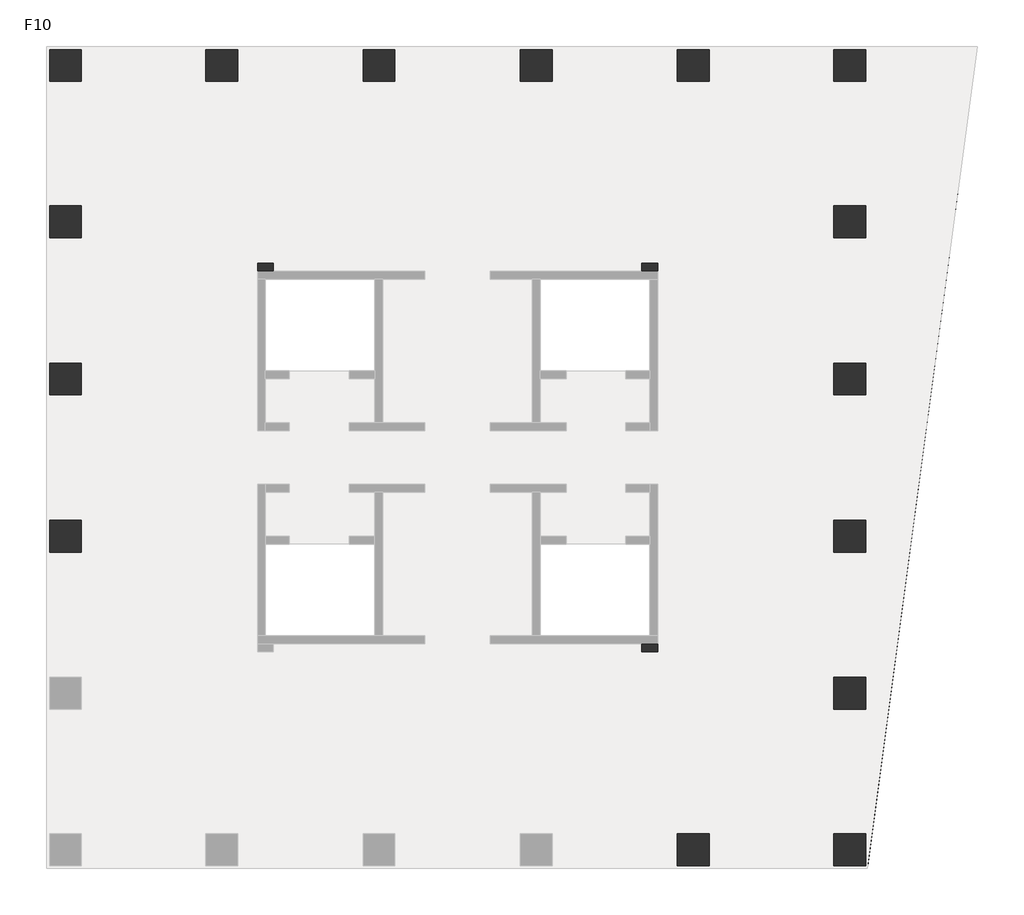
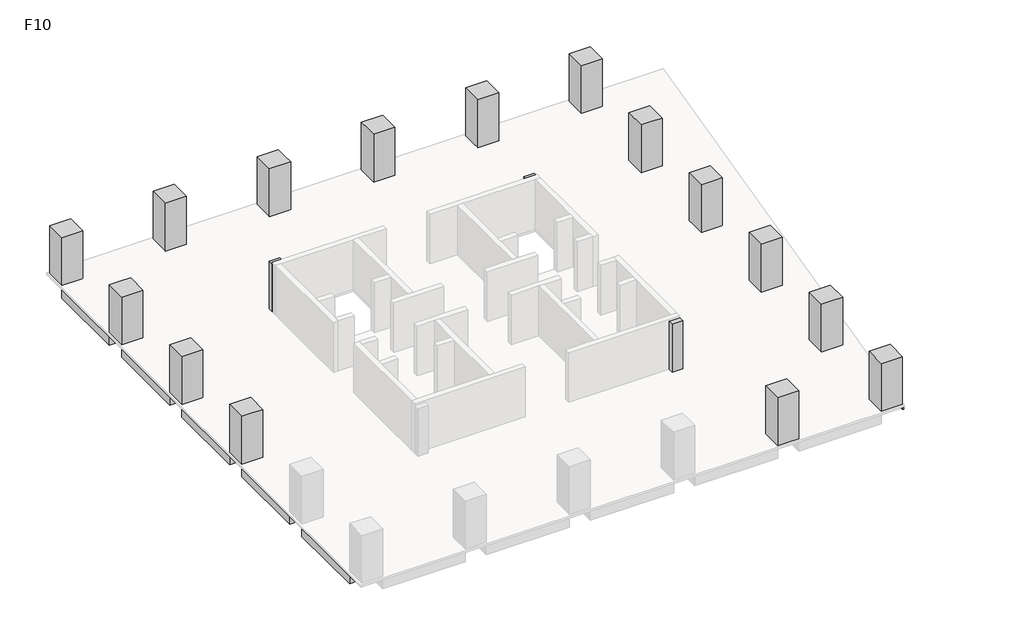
# One storey, part 2 of 2: 21 beams, 18 columns.
"""IFC4 building model written with IfcOpenShell, lengths in millimetres."""

from ifc_helpers import new_model, si_unit, frame, origin, place, context, project, spatial, polyline, outline, extrude, faceted_brep, element, save

model = new_model("IFC4")

# Units and contexts
model_context = context("Model", 3, world=origin())
ifc_project = project(units=[si_unit("LENGTHUNIT", "METRE", prefix="MILLI")], contexts=[model_context])

# Site, building, storey
site = spatial("IfcSite", under=ifc_project)
building = spatial("IfcBuilding", under=site)
storey = spatial("IfcBuildingStorey", under=building, Name="F10", Elevation=40000.0)

# Beams
placement = place(None, origin())
element("IfcBeam", 1, ObjectType="混凝土 - 矩形梁 : KL(5)-800x1000", at=placement, inside=storey, context=model_context, shape_type="SweptSolid", body=[
    extrude(outline(polyline([(25327.3257831, 27051.0498658), (25327.3257831, 26251.0498658), (19077.3257831, 26251.0498658), (19077.3257831, 27051.0498658), (25327.3257831, 27051.0498658)])), frame((0.0, 0.0, 39000.0), z_axis=(0.0, 0.0, 1.0), x_axis=(1.0, 0.0, 0.0)), (0.0, 0.0, 1.0), 840.0),
    extrude(outline(polyline([(-12472.6742169, 26251.0498658), (-12472.6742169, 27051.0498658), (-6222.6742169, 27051.0498658), (-6222.6742169, 26251.0498658), (-12472.6742169, 26251.0498658)])), frame((0.0, 0.0, 39000.0), z_axis=(0.0, 0.0, 1.0), x_axis=(1.0, 0.0, 0.0)), (0.0, 0.0, 1.0), 840.0),
    extrude(outline(polyline([(-4622.6742169, 26251.0498658), (-4622.6742169, 27051.0498658), (1677.3257831, 27051.0498658), (1677.3257831, 26251.0498658), (-4622.6742169, 26251.0498658)])), frame((0.0, 0.0, 39000.0), z_axis=(0.0, 0.0, 1.0), x_axis=(1.0, 0.0, 0.0)), (0.0, 0.0, 1.0), 840.0),
    extrude(outline(polyline([(3277.3257831, 26251.0498658), (3277.3257831, 27051.0498658), (9577.3257831, 27051.0498658), (9577.3257831, 26251.0498658), (3277.3257831, 26251.0498658)])), frame((0.0, 0.0, 39000.0), z_axis=(0.0, 0.0, 1.0), x_axis=(1.0, 0.0, 0.0)), (0.0, 0.0, 1.0), 840.0),
    extrude(outline(polyline([(11177.3257831, 26251.0498658), (11177.3257831, 27051.0498658), (17477.3257831, 27051.0498658), (17477.3257831, 26251.0498658), (11177.3257831, 26251.0498658)])), frame((0.0, 0.0, 39000.0), z_axis=(0.0, 0.0, 1.0), x_axis=(1.0, 0.0, 0.0)), (0.0, 0.0, 1.0), 840.0),
])
element("IfcBeam", 2, ObjectType="混凝土 - 矩形梁 : KL(5)-800x1000", at=placement, inside=storey, context=model_context, shape_type="Brep", body=[
    faceted_brep([(26927.3257831, 26251.0498658, 39000.0), (32422.0087099, 26251.0498658, 39000.0), (32422.0087099, 26251.0498658, 39840.0), (32018.4257091, 26251.0498658, 39840.0), (26927.3257831, 26251.0498658, 39840.0), (32422.0087099, 27051.0498658, 39000.0), (26927.3257831, 27051.0498658, 39000.0), (26927.3257831, 27051.0498658, 39840.0), (32422.0087099, 27051.0498658, 39840.0)], [[[0, 1, 2, 3, 4]], [[5, 1, 0, 6]], [[5, 6, 7, 8]], [[1, 5, 8, 2]], [[6, 0, 4, 7]], [[4, 3, 2, 8, 7]]]),
])
element("IfcBeam", 3, ObjectType="混凝土 - 矩形梁 : KL(5)-800x1000", at=placement, inside=storey, context=model_context, shape_type="Brep", body=[
    faceted_brep([(26127.3257831, -6098.9501342, 39000.0), (26127.3257831, -12348.9501342, 39000.0), (26127.3257831, -12348.9501342, 39840.0), (26127.3257831, -6098.9501342, 39840.0), (26927.3257831, -12348.9501342, 39000.0), (26927.3257831, -6098.9501342, 39000.0), (26927.3257831, -6098.9501342, 39840.0), (26927.3257831, -11700.7859463, 39840.0), (26927.3257831, -12348.9501342, 39840.0)], [[[0, 1, 2, 3]], [[4, 1, 0, 5]], [[4, 5, 6, 7, 8]], [[1, 4, 8, 2]], [[5, 0, 3, 6]], [[3, 2, 8, 7, 6]]]),
    faceted_brep([(26927.3257831, 25451.0498658, 39000.0), (26127.3257831, 25451.0498658, 39000.0), (26127.3257831, 25451.0498658, 39840.0), (26927.3257831, 25451.0498658, 39840.0), (26127.3257831, 19201.0498658, 39000.0), (26927.3257831, 19201.0498658, 39000.0), (26927.3257831, 19201.0498658, 39840.0), (26127.3257831, 19201.0498658, 39840.0)], [[[0, 1, 2, 3]], [[4, 5, 6, 7]], [[1, 4, 7, 2]], [[1, 0, 5, 4]], [[5, 0, 3, 6]], [[3, 2, 7, 6]]]),
    faceted_brep([(26927.3257831, 17601.0498658, 39000.0), (26127.3257831, 17601.0498658, 39000.0), (26127.3257831, 17601.0498658, 39840.0), (26927.3257831, 17601.0498658, 39840.0), (26127.3257831, 11301.0498658, 39000.0), (26927.3257831, 11301.0498658, 39000.0), (26927.3257831, 11301.0498658, 39840.0), (26127.3257831, 11301.0498658, 39840.0)], [[[0, 1, 2, 3]], [[4, 5, 6, 7]], [[1, 4, 7, 2]], [[1, 0, 5, 4]], [[5, 0, 3, 6]], [[3, 2, 7, 6]]]),
    faceted_brep([(26927.3257831, 9701.0498658, 39000.0), (26127.3257831, 9701.0498658, 39000.0), (26127.3257831, 9701.0498658, 39840.0), (26927.3257831, 9701.0498658, 39840.0), (26127.3257831, 3401.0498658, 39000.0), (26927.3257831, 3401.0498658, 39000.0), (26927.3257831, 3401.0498658, 39840.0), (26127.3257831, 3401.0498658, 39840.0)], [[[0, 1, 2, 3]], [[4, 5, 6, 7]], [[1, 4, 7, 2]], [[1, 0, 5, 4]], [[5, 0, 3, 6]], [[3, 2, 7, 6]]]),
    faceted_brep([(26927.3257831, 1801.0498658, 39000.0), (26127.3257831, 1801.0498658, 39000.0), (26127.3257831, 1801.0498658, 39840.0), (26927.3257831, 1801.0498658, 39840.0), (26127.3257831, -4498.9501342, 39000.0), (26927.3257831, -4498.9501342, 39000.0), (26927.3257831, -4498.9501342, 39840.0), (26127.3257831, -4498.9501342, 39840.0)], [[[0, 1, 2, 3]], [[4, 5, 6, 7]], [[1, 4, 7, 2]], [[1, 0, 5, 4]], [[5, 0, 3, 6]], [[3, 2, 7, 6]]]),
])
element("IfcBeam", 4, ObjectType="混凝土 - 矩形梁 : KL(5)-800x1000", at=placement, inside=storey, context=model_context, shape_type="SweptSolid", body=[
    extrude(outline(polyline([(-14072.6742169, 25451.0498658), (-13272.6742169, 25451.0498658), (-13272.6742169, 19201.0498658), (-14072.6742169, 19201.0498658), (-14072.6742169, 25451.0498658)])), frame((0.0, 0.0, 39000.0), z_axis=(0.0, 0.0, 1.0), x_axis=(1.0, 0.0, 0.0)), (0.0, 0.0, 1.0), 840.0),
    extrude(outline(polyline([(-13272.6742169, -12348.9501342), (-14072.6742169, -12348.9501342), (-14072.6742169, -6098.9501342), (-13272.6742169, -6098.9501342), (-13272.6742169, -12348.9501342)])), frame((0.0, 0.0, 39000.0), z_axis=(0.0, 0.0, 1.0), x_axis=(1.0, 0.0, 0.0)), (0.0, 0.0, 1.0), 840.0),
    extrude(outline(polyline([(-14072.6742169, 17601.0498658), (-13272.6742169, 17601.0498658), (-13272.6742169, 11301.0498658), (-14072.6742169, 11301.0498658), (-14072.6742169, 17601.0498658)])), frame((0.0, 0.0, 39000.0), z_axis=(0.0, 0.0, 1.0), x_axis=(1.0, 0.0, 0.0)), (0.0, 0.0, 1.0), 840.0),
    extrude(outline(polyline([(-14072.6742169, 9701.0498658), (-13272.6742169, 9701.0498658), (-13272.6742169, 3401.0498658), (-14072.6742169, 3401.0498658), (-14072.6742169, 9701.0498658)])), frame((0.0, 0.0, 39000.0), z_axis=(0.0, 0.0, 1.0), x_axis=(1.0, 0.0, 0.0)), (0.0, 0.0, 1.0), 840.0),
    extrude(outline(polyline([(-14072.6742169, 1801.0498658), (-13272.6742169, 1801.0498658), (-13272.6742169, -4498.9501342), (-14072.6742169, -4498.9501342), (-14072.6742169, 1801.0498658)])), frame((0.0, 0.0, 39000.0), z_axis=(0.0, 0.0, 1.0), x_axis=(1.0, 0.0, 0.0)), (0.0, 0.0, 1.0), 840.0),
])
element("IfcBeam", 5, ObjectType="混凝土 - 矩形梁 : L1-800x500", at=placement, inside=storey, context=model_context, shape_type="SweptSolid", body=[
    extrude(outline(polyline([(-12472.6742169, 2201.0498658), (-12472.6742169, 3001.0498658), (-3622.6742169, 3001.0498658), (-3622.6742169, 2201.0498658), (-12472.6742169, 2201.0498658)])), frame((0.0, 0.0, 39500.0), z_axis=(0.0, 0.0, 1.0), x_axis=(1.0, 0.0, 0.0)), (0.0, 0.0, 1.0), 340.0),
])
element("IfcBeam", 6, ObjectType="混凝土 - 矩形梁 : L1-800x500", at=placement, inside=storey, context=model_context, shape_type="SweptSolid", body=[
    extrude(outline(polyline([(-12472.6742169, 10101.0498658), (-12472.6742169, 10901.0498658), (-3622.6742169, 10901.0498658), (-3622.6742169, 10101.0498658), (-12472.6742169, 10101.0498658)])), frame((0.0, 0.0, 39500.0), z_axis=(0.0, 0.0, 1.0), x_axis=(1.0, 0.0, 0.0)), (0.0, 0.0, 1.0), 340.0),
])
element("IfcBeam", 7, ObjectType="混凝土 - 矩形梁 : L1-800x500", at=placement, inside=storey, context=model_context, shape_type="Brep", body=[
    faceted_brep([(-12472.6742169, 17789.85471, 39500.0), (-3622.6742169, 15588.3621727, 39500.0), (-3622.6742169, 15588.3621727, 39840.0), (-12472.6742169, 17789.85471, 39840.0), (-3173.6696907, 16301.0498658, 39500.0), (-3622.6742169, 16301.0498658, 39500.0), (-3622.6742169, 15901.0498658, 39500.0), (-12472.6742169, 18614.2350714, 39500.0), (-3746.9473979, 16443.6562607, 39500.0), (-12472.6742169, 18614.2350714, 39840.0), (-3746.9473979, 16443.6562607, 39840.0), (-3173.6696907, 16301.0498658, 39840.0), (-3622.6742169, 16301.0498658, 39840.0)], [[[0, 1, 2, 3]], [[4, 5, 6, 1, 0, 7, 8]], [[4, 8, 7, 9, 10, 11]], [[6, 5, 12, 2, 1]], [[5, 4, 11, 12]], [[7, 0, 3, 9]], [[3, 2, 12, 11, 10, 9]]]),
])
element("IfcBeam", 8, ObjectType="混凝土 - 矩形梁 : L1-800x500", at=placement, inside=storey, context=model_context, shape_type="SweptSolid", body=[
    extrude(outline(polyline([(-3173.6696907, 16301.0498658), (-3746.9473979, 16443.6562607), (-5661.5624638, 25451.0498658), (-4843.6893517, 25451.0498658), (-2898.7618154, 16301.0498658), (-3173.6696907, 16301.0498658)])), frame((0.0, 0.0, 39500.0), z_axis=(0.0, 0.0, 1.0), x_axis=(1.0, 0.0, 0.0)), (0.0, 0.0, 1.0), 340.0),
])
element("IfcBeam", 9, ObjectType="混凝土 - 矩形梁 : L1-800x500", at=placement, inside=storey, context=model_context, shape_type="SweptSolid", body=[
    extrude(outline(polyline([(2077.3257831, 25451.0498658), (2877.3257831, 25451.0498658), (2877.3257831, 15901.0498658), (2077.3257831, 15901.0498658), (2077.3257831, 25451.0498658)])), frame((0.0, 0.0, 39500.0), z_axis=(0.0, 0.0, 1.0), x_axis=(1.0, 0.0, 0.0)), (0.0, 0.0, 1.0), 340.0),
])
element("IfcBeam", 10, ObjectType="混凝土 - 矩形梁 : L1-800x500", at=placement, inside=storey, context=model_context, shape_type="SweptSolid", body=[
    extrude(outline(polyline([(9977.3257831, 25451.0498658), (10777.3257831, 25451.0498658), (10777.3257831, 15901.0498658), (9977.3257831, 15901.0498658), (9977.3257831, 25451.0498658)])), frame((0.0, 0.0, 39500.0), z_axis=(0.0, 0.0, 1.0), x_axis=(1.0, 0.0, 0.0)), (0.0, 0.0, 1.0), 340.0),
])
element("IfcBeam", 11, ObjectType="混凝土 - 矩形梁 : L1-800x500", at=placement, inside=storey, context=model_context, shape_type="Brep", body=[
    faceted_brep([(25327.3257831, -4687.7549784, 39500.0), (16477.3257831, -2486.2624411, 39500.0), (16477.3257831, -2486.2624411, 39840.0), (25327.3257831, -4687.7549784, 39840.0), (16028.3212569, -3198.9501342, 39500.0), (16477.3257831, -3198.9501342, 39500.0), (16477.3257831, -2798.9501342, 39500.0), (25327.3257831, -5512.1353397, 39500.0), (16601.5989641, -3341.556529, 39500.0), (25327.3257831, -5512.1353397, 39840.0), (16601.5989641, -3341.556529, 39840.0), (16028.3212569, -3198.9501342, 39840.0), (16477.3257831, -3198.9501342, 39840.0)], [[[0, 1, 2, 3]], [[4, 5, 6, 1, 0, 7, 8]], [[4, 8, 7, 9, 10, 11]], [[6, 5, 12, 2, 1]], [[5, 4, 11, 12]], [[7, 0, 3, 9]], [[3, 2, 12, 11, 10, 9]]]),
])
element("IfcBeam", 12, ObjectType="混凝土 - 矩形梁 : L1-800x500", at=placement, inside=storey, context=model_context, shape_type="SweptSolid", body=[
    extrude(outline(polyline([(16028.3212569, -3198.9501342), (16601.5989641, -3341.556529), (18516.21403, -12348.9501342), (17698.3409179, -12348.9501342), (15753.4133817, -3198.9501342), (16028.3212569, -3198.9501342)])), frame((0.0, 0.0, 39500.0), z_axis=(0.0, 0.0, 1.0), x_axis=(1.0, 0.0, 0.0)), (0.0, 0.0, 1.0), 340.0),
])
element("IfcBeam", 13, ObjectType="混凝土 - 矩形梁 : L1-800x500", at=placement, inside=storey, context=model_context, shape_type="SweptSolid", body=[
    extrude(outline(polyline([(25327.3257831, 3001.0498658), (25327.3257831, 2201.0498658), (16477.3257831, 2201.0498658), (16477.3257831, 3001.0498658), (25327.3257831, 3001.0498658)])), frame((0.0, 0.0, 39500.0), z_axis=(0.0, 0.0, 1.0), x_axis=(1.0, 0.0, 0.0)), (0.0, 0.0, 1.0), 340.0),
])
element("IfcBeam", 14, ObjectType="混凝土 - 矩形梁 : L1-800x500", at=placement, inside=storey, context=model_context, shape_type="SweptSolid", body=[
    extrude(outline(polyline([(25327.3257831, 10901.0498658), (25327.3257831, 10101.0498658), (16477.3257831, 10101.0498658), (16477.3257831, 10901.0498658), (25327.3257831, 10901.0498658)])), frame((0.0, 0.0, 39500.0), z_axis=(0.0, 0.0, 1.0), x_axis=(1.0, 0.0, 0.0)), (0.0, 0.0, 1.0), 340.0),
])
element("IfcBeam", 15, ObjectType="混凝土 - 矩形梁 : L1-800x500", at=placement, inside=storey, context=model_context, shape_type="Brep", body=[
    faceted_brep([(25327.3257831, 18610.6867312, 39500.0), (16590.8993897, 16393.3196262, 39500.0), (16227.3565337, 16301.0498658, 39500.0), (16227.3565337, 16301.0498658, 39840.0), (16590.8993897, 16393.3196262, 39840.0), (25327.3257831, 18610.6867312, 39840.0), (16477.3257831, 16301.0498658, 39500.0), (25327.3257831, 17785.3216299, 39500.0), (16477.3257831, 15539.1287365, 39500.0), (16477.3257831, 15901.0498658, 39500.0), (25327.3257831, 17785.3216299, 39840.0), (16477.3257831, 15539.1287365, 39840.0), (16477.3257831, 16301.0498658, 39840.0)], [[[0, 1, 2, 3, 4, 5]], [[6, 2, 1, 0, 7, 8, 9]], [[8, 7, 10, 11]], [[9, 8, 11, 12, 6]], [[2, 6, 12, 3]], [[7, 0, 5, 10]], [[5, 4, 3, 12, 11, 10]]]),
])
element("IfcBeam", 16, ObjectType="混凝土 - 矩形梁 : L1-800x500", at=placement, inside=storey, context=model_context, shape_type="SweptSolid", body=[
    extrude(outline(polyline([(16590.8993897, 16393.3196262), (16227.3565337, 16301.0498658), (15753.4133817, 16301.0498658), (17698.3409179, 25451.0498658), (18516.21403, 25451.0498658), (16590.8993897, 16393.3196262)])), frame((0.0, 0.0, 39500.0), z_axis=(0.0, 0.0, 1.0), x_axis=(1.0, 0.0, 0.0)), (0.0, 0.0, 1.0), 340.0),
])
element("IfcBeam", 17, ObjectType="混凝土 - 矩形梁 : L2-400x400", at=placement, inside=storey, context=model_context, shape_type="Brep", body=[
    faceted_brep([(32422.0087099, 26251.0498658, 39600.0), (27029.3257831, -13948.9501342, 39600.0), (26927.3257831, -13935.2672073, 39600.0), (26927.3257831, -11700.7859463, 39600.0), (27759.2793677, -5498.9501342, 39600.0), (27812.9379042, -5098.9501342, 39600.0), (28819.0354652, 2401.0498658, 39600.0), (28872.6940018, 2801.0498658, 39600.0), (29878.7915628, 10301.0498658, 39600.0), (29932.4500994, 10701.0498658, 39600.0), (30938.5476603, 18201.0498658, 39600.0), (30992.2061969, 18601.0498658, 39600.0), (32018.4257091, 26251.0498658, 39600.0), (32422.0087099, 26251.0498658, 39840.0), (27029.3257831, -13948.9501342, 39840.0), (32018.4257091, 26251.0498658, 39840.0), (26927.3257831, -13935.2672073, 39840.0), (26927.3257831, -12348.9501342, 39840.0), (26927.3257831, -11700.7859463, 39840.0), (27759.2793677, -5498.9501342, 39840.0), (27812.9379042, -5098.9501342, 39840.0), (28819.0354652, 2401.0498658, 39840.0), (28872.6940018, 2801.0498658, 39840.0), (29878.7915628, 10301.0498658, 39840.0), (29932.4500994, 10701.0498658, 39840.0), (30938.5476603, 18201.0498658, 39840.0), (30992.2061969, 18601.0498658, 39840.0)], [[[0, 1, 2, 3, 4, 5, 6, 7, 8, 9, 10, 11, 12]], [[1, 0, 13, 14]], [[0, 12, 15, 13]], [[3, 2, 16, 17, 18]], [[12, 11, 10, 9, 8, 7, 6, 5, 4, 3, 18, 19, 20, 21, 22, 23, 24, 25, 26, 15]], [[2, 1, 14, 16]], [[14, 13, 15, 26, 25, 24, 23, 22, 21, 20, 19, 18, 17, 16]]]),
])
element("IfcBeam", 18, ObjectType="混凝土 - 矩形梁 : L2-400x400", at=placement, inside=storey, context=model_context, shape_type="SweptSolid", body=[
    extrude(outline(polyline([(30938.5476603, 18201.0498658), (26927.3257831, 18201.0498658), (26927.3257831, 18601.0498658), (30992.2061969, 18601.0498658), (30938.5476603, 18201.0498658)])), frame((0.0, 0.0, 39600.0), z_axis=(0.0, 0.0, 1.0), x_axis=(1.0, 0.0, 0.0)), (0.0, 0.0, 1.0), 240.0),
])
element("IfcBeam", 19, ObjectType="混凝土 - 矩形梁 : L2-400x400", at=placement, inside=storey, context=model_context, shape_type="SweptSolid", body=[
    extrude(outline(polyline([(29878.7915628, 10301.0498658), (26927.3257831, 10301.0498658), (26927.3257831, 10701.0498658), (29932.4500994, 10701.0498658), (29878.7915628, 10301.0498658)])), frame((0.0, 0.0, 39600.0), z_axis=(0.0, 0.0, 1.0), x_axis=(1.0, 0.0, 0.0)), (0.0, 0.0, 1.0), 240.0),
])
element("IfcBeam", 20, ObjectType="混凝土 - 矩形梁 : L2-400x400", at=placement, inside=storey, context=model_context, shape_type="SweptSolid", body=[
    extrude(outline(polyline([(28819.0354652, 2401.0498658), (26927.3257831, 2401.0498658), (26927.3257831, 2801.0498658), (28872.6940018, 2801.0498658), (28819.0354652, 2401.0498658)])), frame((0.0, 0.0, 39600.0), z_axis=(0.0, 0.0, 1.0), x_axis=(1.0, 0.0, 0.0)), (0.0, 0.0, 1.0), 240.0),
])
element("IfcBeam", 21, ObjectType="混凝土 - 矩形梁 : L2-400x400", at=placement, inside=storey, context=model_context, shape_type="SweptSolid", body=[
    extrude(outline(polyline([(27759.2793677, -5498.9501342), (26927.3257831, -5498.9501342), (26927.3257831, -5098.9501342), (27812.9379042, -5098.9501342), (27759.2793677, -5498.9501342)])), frame((0.0, 0.0, 39600.0), z_axis=(0.0, 0.0, 1.0), x_axis=(1.0, 0.0, 0.0)), (0.0, 0.0, 1.0), 240.0),
])

# Columns
element("IfcColumn", 22, ObjectType="混凝土 - 矩形 - 柱 : Z1-1600x1600", at=placement, inside=storey, context=model_context, shape_type="SweptSolid", body=[
    extrude(outline(polyline([(-12472.6742169, 27051.0498658), (-12472.6742169, 25451.0498658), (-14072.6742169, 25451.0498658), (-14072.6742169, 27051.0498658), (-12472.6742169, 27051.0498658)])), frame((0.0, 0.0, 40000.0), z_axis=(0.0, 0.0, 1.0), x_axis=(1.0, 0.0, 0.0)), (0.0, 0.0, 1.0), 3840.0),
])
element("IfcColumn", 23, ObjectType="混凝土 - 矩形 - 柱 : Z1-1600x1600", at=placement, inside=storey, context=model_context, shape_type="Brep", body=[
    faceted_brep([(-4622.6742169, 27051.0498658, 40000.0), (-4622.6742169, 25451.0498658, 40000.0), (-6222.6742169, 25451.0498658, 40000.0), (-6222.6742169, 27051.0498658, 40000.0), (-4622.6742169, 27051.0498658, 43000.0), (-4622.6742169, 27051.0498658, 43840.0), (-4622.6742169, 26251.0498658, 43840.0), (-4622.6742169, 25451.0498658, 43840.0), (-6222.6742169, 25451.0498658, 43840.0), (-6222.6742169, 26251.0498658, 43840.0), (-6222.6742169, 27051.0498658, 43840.0), (-6222.6742169, 27051.0498658, 43000.0)], [[[0, 1, 2, 3]], [[1, 0, 4, 5, 6, 7]], [[2, 1, 7, 8]], [[3, 2, 8, 9, 10, 11]], [[0, 3, 11, 10, 5, 4]], [[7, 6, 5, 10, 9, 8]]]),
])
element("IfcColumn", 24, ObjectType="混凝土 - 矩形 - 柱 : Z1-1600x1600", at=placement, inside=storey, context=model_context, shape_type="Brep", body=[
    faceted_brep([(-12472.6742169, 19201.0498658, 40000.0), (-12472.6742169, 17601.0498658, 40000.0), (-14072.6742169, 17601.0498658, 40000.0), (-14072.6742169, 19201.0498658, 40000.0), (-12472.6742169, 19201.0498658, 43840.0), (-12472.6742169, 17601.0498658, 43840.0), (-13272.6742169, 17601.0498658, 43840.0), (-14072.6742169, 17601.0498658, 43840.0), (-14072.6742169, 17601.0498658, 43000.0), (-14072.6742169, 19201.0498658, 43840.0), (-14072.6742169, 19201.0498658, 43000.0), (-13272.6742169, 19201.0498658, 43840.0)], [[[0, 1, 2, 3]], [[1, 0, 4, 5]], [[2, 1, 5, 6, 7, 8]], [[3, 2, 8, 7, 9, 10]], [[0, 3, 10, 9, 11, 4]], [[5, 4, 11, 9, 7, 6]]]),
])
element("IfcColumn", 25, ObjectType="混凝土 - 矩形 - 柱 : Z1-1600x1600", at=placement, inside=storey, context=model_context, shape_type="Brep", body=[
    faceted_brep([(-12472.6742169, 11301.0498658, 40000.0), (-12472.6742169, 9701.0498658, 40000.0), (-14072.6742169, 9701.0498658, 40000.0), (-14072.6742169, 11301.0498658, 40000.0), (-12472.6742169, 11301.0498658, 43840.0), (-12472.6742169, 9701.0498658, 43840.0), (-13272.6742169, 9701.0498658, 43840.0), (-14072.6742169, 9701.0498658, 43840.0), (-14072.6742169, 9701.0498658, 43000.0), (-14072.6742169, 11301.0498658, 43840.0), (-14072.6742169, 11301.0498658, 43000.0), (-13272.6742169, 11301.0498658, 43840.0)], [[[0, 1, 2, 3]], [[1, 0, 4, 5]], [[2, 1, 5, 6, 7, 8]], [[3, 2, 8, 7, 9, 10]], [[0, 3, 10, 9, 11, 4]], [[5, 4, 11, 9, 7, 6]]]),
])
element("IfcColumn", 26, ObjectType="混凝土 - 矩形 - 柱 : Z1-1600x1600", at=placement, inside=storey, context=model_context, shape_type="Brep", body=[
    faceted_brep([(-12472.6742169, 3401.0498658, 40000.0), (-12472.6742169, 1801.0498658, 40000.0), (-14072.6742169, 1801.0498658, 40000.0), (-14072.6742169, 3401.0498658, 40000.0), (-12472.6742169, 3401.0498658, 43840.0), (-12472.6742169, 1801.0498658, 43840.0), (-13272.6742169, 1801.0498658, 43840.0), (-14072.6742169, 1801.0498658, 43840.0), (-14072.6742169, 1801.0498658, 43000.0), (-14072.6742169, 3401.0498658, 43840.0), (-14072.6742169, 3401.0498658, 43000.0), (-13272.6742169, 3401.0498658, 43840.0)], [[[0, 1, 2, 3]], [[1, 0, 4, 5]], [[2, 1, 5, 6, 7, 8]], [[3, 2, 8, 7, 9, 10]], [[0, 3, 10, 9, 11, 4]], [[5, 4, 11, 9, 7, 6]]]),
])
element("IfcColumn", 27, ObjectType="混凝土 - 矩形 - 柱 : Z1-1600x1600", at=placement, inside=storey, context=model_context, shape_type="SweptSolid", body=[
    extrude(outline(polyline([(25327.3257831, 27051.0498658), (26927.3257831, 27051.0498658), (26927.3257831, 25451.0498658), (25327.3257831, 25451.0498658), (25327.3257831, 27051.0498658)])), frame((0.0, 0.0, 40000.0), z_axis=(0.0, 0.0, 1.0), x_axis=(1.0, 0.0, 0.0)), (0.0, 0.0, 1.0), 3840.0),
])
element("IfcColumn", 28, ObjectType="混凝土 - 矩形 - 柱 : Z1-1600x1600", at=placement, inside=storey, context=model_context, shape_type="Brep", body=[
    faceted_brep([(25327.3257831, 19201.0498658, 40000.0), (26927.3257831, 19201.0498658, 40000.0), (26927.3257831, 17601.0498658, 40000.0), (25327.3257831, 17601.0498658, 40000.0), (25327.3257831, 17601.0498658, 43840.0), (25327.3257831, 19201.0498658, 43840.0), (26927.3257831, 17601.0498658, 43000.0), (26927.3257831, 17601.0498658, 43840.0), (26127.3257831, 17601.0498658, 43840.0), (26927.3257831, 19201.0498658, 43000.0), (26927.3257831, 19201.0498658, 43840.0), (26127.3257831, 19201.0498658, 43840.0)], [[[0, 1, 2, 3]], [[0, 3, 4, 5]], [[3, 2, 6, 7, 8, 4]], [[2, 1, 9, 10, 7, 6]], [[1, 0, 5, 11, 10, 9]], [[5, 4, 8, 7, 10, 11]]]),
])
element("IfcColumn", 29, ObjectType="混凝土 - 矩形 - 柱 : Z1-1600x1600", at=placement, inside=storey, context=model_context, shape_type="Brep", body=[
    faceted_brep([(25327.3257831, 11301.0498658, 40000.0), (26927.3257831, 11301.0498658, 40000.0), (26927.3257831, 9701.0498658, 40000.0), (25327.3257831, 9701.0498658, 40000.0), (25327.3257831, 9701.0498658, 43840.0), (25327.3257831, 11301.0498658, 43840.0), (26927.3257831, 9701.0498658, 43000.0), (26927.3257831, 9701.0498658, 43840.0), (26127.3257831, 9701.0498658, 43840.0), (26927.3257831, 11301.0498658, 43000.0), (26927.3257831, 11301.0498658, 43840.0), (26127.3257831, 11301.0498658, 43840.0)], [[[0, 1, 2, 3]], [[0, 3, 4, 5]], [[3, 2, 6, 7, 8, 4]], [[2, 1, 9, 10, 7, 6]], [[1, 0, 5, 11, 10, 9]], [[5, 4, 8, 7, 10, 11]]]),
])
element("IfcColumn", 30, ObjectType="混凝土 - 矩形 - 柱 : Z1-1600x1600", at=placement, inside=storey, context=model_context, shape_type="Brep", body=[
    faceted_brep([(25327.3257831, 3401.0498658, 40000.0), (26927.3257831, 3401.0498658, 40000.0), (26927.3257831, 1801.0498658, 40000.0), (25327.3257831, 1801.0498658, 40000.0), (25327.3257831, 1801.0498658, 43840.0), (25327.3257831, 3401.0498658, 43840.0), (26927.3257831, 1801.0498658, 43000.0), (26927.3257831, 1801.0498658, 43840.0), (26127.3257831, 1801.0498658, 43840.0), (26927.3257831, 3401.0498658, 43000.0), (26927.3257831, 3401.0498658, 43840.0), (26127.3257831, 3401.0498658, 43840.0)], [[[0, 1, 2, 3]], [[0, 3, 4, 5]], [[3, 2, 6, 7, 8, 4]], [[2, 1, 9, 10, 7, 6]], [[1, 0, 5, 11, 10, 9]], [[5, 4, 8, 7, 10, 11]]]),
])
element("IfcColumn", 31, ObjectType="混凝土 - 矩形 - 柱 : Z1-1600x1600", at=placement, inside=storey, context=model_context, shape_type="Brep", body=[
    faceted_brep([(25327.3257831, -4498.9501342, 40000.0), (26927.3257831, -4498.9501342, 40000.0), (26927.3257831, -6098.9501342, 40000.0), (25327.3257831, -6098.9501342, 40000.0), (25327.3257831, -6098.9501342, 43840.0), (25327.3257831, -4498.9501342, 43840.0), (26927.3257831, -6098.9501342, 43000.0), (26927.3257831, -6098.9501342, 43840.0), (26127.3257831, -6098.9501342, 43840.0), (26927.3257831, -4498.9501342, 43000.0), (26927.3257831, -4498.9501342, 43840.0), (26127.3257831, -4498.9501342, 43840.0)], [[[0, 1, 2, 3]], [[0, 3, 4, 5]], [[3, 2, 6, 7, 8, 4]], [[2, 1, 9, 10, 7, 6]], [[1, 0, 5, 11, 10, 9]], [[5, 4, 8, 7, 10, 11]]]),
])
element("IfcColumn", 32, ObjectType="混凝土 - 矩形 - 柱 : Z1-1600x1600", at=placement, inside=storey, context=model_context, shape_type="SweptSolid", body=[
    extrude(outline(polyline([(25327.3257831, -12348.9501342), (26927.3257831, -12348.9501342), (26927.3257831, -13948.9501342), (25327.3257831, -13948.9501342), (25327.3257831, -12348.9501342)])), frame((0.0, 0.0, 40000.0), z_axis=(0.0, 0.0, 1.0), x_axis=(1.0, 0.0, 0.0)), (0.0, 0.0, 1.0), 3840.0),
])
element("IfcColumn", 33, ObjectType="混凝土 - 矩形 - 柱 : Z1-1600x1600", at=placement, inside=storey, context=model_context, shape_type="Brep", body=[
    faceted_brep([(3277.3257831, 27051.0498658, 40000.0), (3277.3257831, 25451.0498658, 40000.0), (1677.3257831, 25451.0498658, 40000.0), (1677.3257831, 27051.0498658, 40000.0), (3277.3257831, 27051.0498658, 43000.0), (3277.3257831, 27051.0498658, 43840.0), (3277.3257831, 26251.0498658, 43840.0), (3277.3257831, 25451.0498658, 43840.0), (1677.3257831, 25451.0498658, 43840.0), (1677.3257831, 26251.0498658, 43840.0), (1677.3257831, 27051.0498658, 43840.0), (1677.3257831, 27051.0498658, 43000.0)], [[[0, 1, 2, 3]], [[1, 0, 4, 5, 6, 7]], [[2, 1, 7, 8]], [[3, 2, 8, 9, 10, 11]], [[0, 3, 11, 10, 5, 4]], [[7, 6, 5, 10, 9, 8]]]),
])
element("IfcColumn", 34, ObjectType="混凝土 - 矩形 - 柱 : Z1-1600x1600", at=placement, inside=storey, context=model_context, shape_type="Brep", body=[
    faceted_brep([(11177.3257831, 27051.0498658, 40000.0), (11177.3257831, 25451.0498658, 40000.0), (9577.3257831, 25451.0498658, 40000.0), (9577.3257831, 27051.0498658, 40000.0), (11177.3257831, 27051.0498658, 43000.0), (11177.3257831, 27051.0498658, 43840.0), (11177.3257831, 26251.0498658, 43840.0), (11177.3257831, 25451.0498658, 43840.0), (9577.3257831, 25451.0498658, 43840.0), (9577.3257831, 26251.0498658, 43840.0), (9577.3257831, 27051.0498658, 43840.0), (9577.3257831, 27051.0498658, 43000.0)], [[[0, 1, 2, 3]], [[1, 0, 4, 5, 6, 7]], [[2, 1, 7, 8]], [[3, 2, 8, 9, 10, 11]], [[0, 3, 11, 10, 5, 4]], [[7, 6, 5, 10, 9, 8]]]),
])
element("IfcColumn", 35, ObjectType="混凝土 - 矩形 - 柱 : Z1-1600x1600", at=placement, inside=storey, context=model_context, shape_type="Brep", body=[
    faceted_brep([(19077.3257831, 27051.0498658, 40000.0), (19077.3257831, 25451.0498658, 40000.0), (17477.3257831, 25451.0498658, 40000.0), (17477.3257831, 27051.0498658, 40000.0), (19077.3257831, 27051.0498658, 43000.0), (19077.3257831, 27051.0498658, 43840.0), (19077.3257831, 26251.0498658, 43840.0), (19077.3257831, 25451.0498658, 43840.0), (17477.3257831, 25451.0498658, 43840.0), (17477.3257831, 26251.0498658, 43840.0), (17477.3257831, 27051.0498658, 43840.0), (17477.3257831, 27051.0498658, 43000.0)], [[[0, 1, 2, 3]], [[1, 0, 4, 5, 6, 7]], [[2, 1, 7, 8]], [[3, 2, 8, 9, 10, 11]], [[0, 3, 11, 10, 5, 4]], [[7, 6, 5, 10, 9, 8]]]),
])
element("IfcColumn", 36, ObjectType="混凝土 - 矩形 - 柱 : Z1-1600x1600", at=placement, inside=storey, context=model_context, shape_type="Brep", body=[
    faceted_brep([(19077.3257831, -12348.9501342, 40000.0), (19077.3257831, -13948.9501342, 40000.0), (17477.3257831, -13948.9501342, 40000.0), (17477.3257831, -12348.9501342, 40000.0), (19077.3257831, -12348.9501342, 43840.0), (19077.3257831, -13148.9501342, 43840.0), (19077.3257831, -13948.9501342, 43840.0), (19077.3257831, -13948.9501342, 43000.0), (17477.3257831, -13948.9501342, 43840.0), (17477.3257831, -13948.9501342, 43000.0), (17477.3257831, -13148.9501342, 43840.0), (17477.3257831, -12348.9501342, 43840.0)], [[[0, 1, 2, 3]], [[1, 0, 4, 5, 6, 7]], [[2, 1, 7, 6, 8, 9]], [[3, 2, 9, 8, 10, 11]], [[0, 3, 11, 4]], [[6, 5, 4, 11, 10, 8]]]),
])
element("IfcColumn", 37, ObjectType="混凝土 - 矩形 - 柱 : Z2-800x800", at=placement, inside=storey, context=model_context, shape_type="SweptSolid", body=[
    extrude(outline(polyline([(-3622.6742169, 16301.0498658), (-2822.6742169, 16301.0498658), (-2822.6742169, 15901.0498658), (-3622.6742169, 15901.0498658), (-3622.6742169, 16301.0498658)])), frame((0.0, 0.0, 40000.0), z_axis=(0.0, 0.0, 1.0), x_axis=(1.0, 0.0, 0.0)), (0.0, 0.0, 1.0), 3840.0),
])
element("IfcColumn", 38, ObjectType="混凝土 - 矩形 - 柱 : Z2-800x800", at=placement, inside=storey, context=model_context, shape_type="SweptSolid", body=[
    extrude(outline(polyline([(16477.3257831, -3198.9501342), (15677.3257831, -3198.9501342), (15677.3257831, -2798.9501342), (16477.3257831, -2798.9501342), (16477.3257831, -3198.9501342)])), frame((0.0, 0.0, 40000.0), z_axis=(0.0, 0.0, 1.0), x_axis=(1.0, 0.0, 0.0)), (0.0, 0.0, 1.0), 3840.0),
])
element("IfcColumn", 39, ObjectType="混凝土 - 矩形 - 柱 : Z2-800x800", at=placement, inside=storey, context=model_context, shape_type="SweptSolid", body=[
    extrude(outline(polyline([(15677.3257831, 16301.0498658), (16477.3257831, 16301.0498658), (16477.3257831, 15901.0498658), (15677.3257831, 15901.0498658), (15677.3257831, 16301.0498658)])), frame((0.0, 0.0, 40000.0), z_axis=(0.0, 0.0, 1.0), x_axis=(1.0, 0.0, 0.0)), (0.0, 0.0, 1.0), 3840.0),
])

save(model, "model.ifc")
